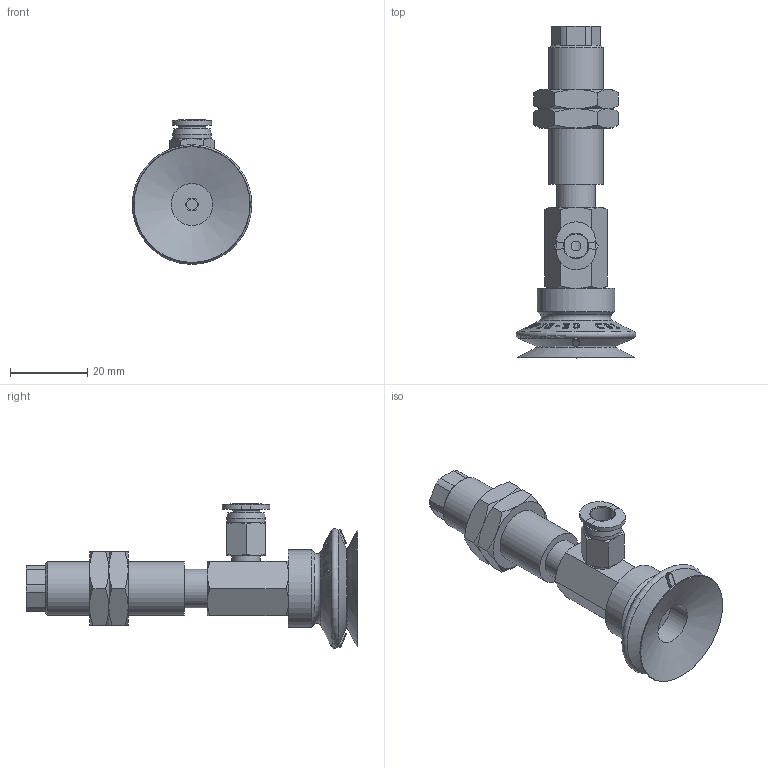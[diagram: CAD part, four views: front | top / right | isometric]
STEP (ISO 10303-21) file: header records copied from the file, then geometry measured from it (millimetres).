
FILE_DESCRIPTION(('STEP AP214'),'1');
FILE_NAME('-O.stp','2026-01-21T05:51:03',(' '),(' '),'Spatial InterOp 3D',' ',' ');
FILE_SCHEMA(('AUTOMOTIVE_DESIGN { 1 0 10303 214 1 1 1 1 }'));
Length unit declared in the file: millimetre
Products named in the file (8): BNABPJYS-30-6-※-O; PC-C_06-M5; BPJG-30-※; Adapter-30-NAPJ; CONNECTOR_S-30-6; NUT-NAPJ-30-6-s; NAPJYS-30-6-FBODY; NAPJYS-30-6-MBODY
Assembly tree (8 placements, depth 2):
  BNABPJYS-30-6-※-O
    PC-C_06-M5
    BPJG-30-※
    Adapter-30-NAPJ
    CONNECTOR_S-30-6
    NUT-NAPJ-30-6-s  x2
    NAPJYS-30-6-FBODY
    NAPJYS-30-6-MBODY
Bounding box: 30.99 x 86 x 37.48 mm (x, y, z)
Volume: 17349 mm3; surface area: 13638.6 mm2
Topology: 7 solids, 10 shells, 833 faces, 2269 edges, 1484 vertices
Faces by surface type: plane 692, cone 86, cylinder 39, torus 9, bspline 4, revolution 3
Full cylindrical faces by diameter (mm): 3 x2, 4 x2, 4.134 x2, 4.917 x1, 5 x2, 5.8 x1, 6 x1, 7 x1, 7.4 x1, 8.2 x1, 10 x3, 10.8 x1, 11 x1, 13.188 x2, 14 x1, 20 x1
Entity records: 33177 total; most frequent: CARTESIAN_POINT 8335, ORIENTED_EDGE 4328, DIRECTION 2822, EDGE_CURVE 2166, VERTEX_POINT 1449, B_SPLINE_CURVE_WITH_KNOTS 1092, AXIS2_PLACEMENT_3D 955, LINE 909
